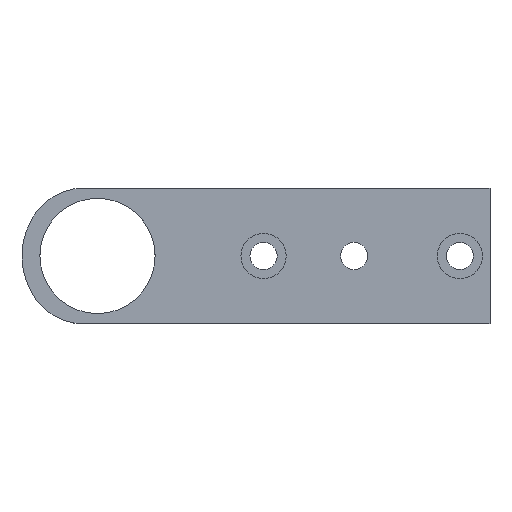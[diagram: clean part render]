
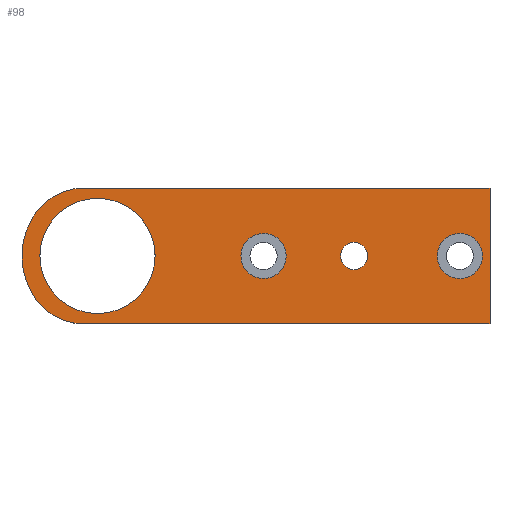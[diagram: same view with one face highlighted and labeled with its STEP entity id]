
A CAD part, top view. The second image highlights one B-rep face of the part: STEP entity #98.
In plain terms, the highlighted planar face has unit normal (0, 0, 1).
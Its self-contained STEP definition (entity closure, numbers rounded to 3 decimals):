
#11 = VERTEX_POINT ( 'NONE', #377 ) ;
#17 = VERTEX_POINT ( 'NONE', #391 ) ;
#23 = VERTEX_POINT ( 'NONE', #416 ) ;
#27 = EDGE_CURVE ( 'NONE', #23, #11, #423, .T. ) ;
#29 = VERTEX_POINT ( 'NONE', #384 ) ;
#52 = EDGE_CURVE ( 'NONE', #81, #29, #436, .T. ) ;
#67 = ORIENTED_EDGE ( 'NONE', *, *, #230, .T. ) ;
#81 = VERTEX_POINT ( 'NONE', #499 ) ;
#83 = VERTEX_POINT ( 'NONE', #498 ) ;
#84 = EDGE_LOOP ( 'NONE', ( #139, #95 ) ) ;
#86 = EDGE_LOOP ( 'NONE', ( #104, #105, #103, #97, #138, #67, #229 ) ) ;
#95 = ORIENTED_EDGE ( 'NONE', *, *, #119, .T. ) ;
#96 = EDGE_CURVE ( 'NONE', #83, #17, #550, .T. ) ;
#97 = ORIENTED_EDGE ( 'NONE', *, *, #102, .T. ) ;
#98 = ADVANCED_FACE ( 'NONE', ( #492, #551, #542, #541, #553 ), #552, .T. ) ;
#102 = EDGE_CURVE ( 'NONE', #126, #83, #531, .T. ) ;
#103 = ORIENTED_EDGE ( 'NONE', *, *, #121, .T. ) ;
#104 = ORIENTED_EDGE ( 'NONE', *, *, #142, .T. ) ;
#105 = ORIENTED_EDGE ( 'NONE', *, *, #27, .T. ) ;
#119 = EDGE_CURVE ( 'NONE', #29, #81, #566, .T. ) ;
#121 = EDGE_CURVE ( 'NONE', #11, #126, #615, .T. ) ;
#126 = VERTEX_POINT ( 'NONE', #600 ) ;
#138 = ORIENTED_EDGE ( 'NONE', *, *, #96, .T. ) ;
#139 = ORIENTED_EDGE ( 'NONE', *, *, #52, .T. ) ;
#141 = VERTEX_POINT ( 'NONE', #643 ) ;
#142 = EDGE_CURVE ( 'NONE', #141, #23, #654, .T. ) ;
#220 = ORIENTED_EDGE ( 'NONE', *, *, #353, .F. ) ;
#222 = EDGE_CURVE ( 'NONE', #223, #141, #732, .T. ) ;
#223 = VERTEX_POINT ( 'NONE', #722 ) ;
#229 = ORIENTED_EDGE ( 'NONE', *, *, #222, .T. ) ;
#230 = EDGE_CURVE ( 'NONE', #17, #223, #769, .T. ) ;
#253 = ORIENTED_EDGE ( 'NONE', *, *, #273, .F. ) ;
#254 = EDGE_LOOP ( 'NONE', ( #256, #255 ) ) ;
#255 = ORIENTED_EDGE ( 'NONE', *, *, #282, .T. ) ;
#256 = ORIENTED_EDGE ( 'NONE', *, *, #257, .T. ) ;
#257 = EDGE_CURVE ( 'NONE', #327, #319, #721, .T. ) ;
#258 = ORIENTED_EDGE ( 'NONE', *, *, #259, .F. ) ;
#259 = EDGE_CURVE ( 'NONE', #270, #272, #806, .T. ) ;
#260 = EDGE_LOOP ( 'NONE', ( #262, #220 ) ) ;
#261 = EDGE_LOOP ( 'NONE', ( #258, #253 ) ) ;
#262 = ORIENTED_EDGE ( 'NONE', *, *, #263, .F. ) ;
#263 = EDGE_CURVE ( 'NONE', #368, #369, #796, .T. ) ;
#270 = VERTEX_POINT ( 'NONE', #837 ) ;
#272 = VERTEX_POINT ( 'NONE', #832 ) ;
#273 = EDGE_CURVE ( 'NONE', #272, #270, #784, .T. ) ;
#282 = EDGE_CURVE ( 'NONE', #319, #327, #792, .T. ) ;
#319 = VERTEX_POINT ( 'NONE', #862 ) ;
#327 = VERTEX_POINT ( 'NONE', #922 ) ;
#353 = EDGE_CURVE ( 'NONE', #369, #368, #974, .T. ) ;
#368 = VERTEX_POINT ( 'NONE', #1011 ) ;
#369 = VERTEX_POINT ( 'NONE', #954 ) ;
#377 = CARTESIAN_POINT ( 'NONE',  ( -21.651, -12.5, 6. ) ) ;
#384 = CARTESIAN_POINT ( 'NONE',  ( 19.079, 0., 6. ) ) ;
#391 = CARTESIAN_POINT ( 'NONE',  ( 130., 22.5, 6. ) ) ;
#404 = DIRECTION ( 'NONE',  ( 1., 0., 0. ) ) ;
#405 = DIRECTION ( 'NONE',  ( 0., 0., 1. ) ) ;
#406 = CARTESIAN_POINT ( 'NONE',  ( 0., 0., 6. ) ) ;
#408 = AXIS2_PLACEMENT_3D ( 'NONE', #406, #405, #404 ) ;
#416 = CARTESIAN_POINT ( 'NONE',  ( -25., 0., 6. ) ) ;
#423 = CIRCLE ( 'NONE', #408, 25. ) ;
#432 = DIRECTION ( 'NONE',  ( 1., 0., 0. ) ) ;
#433 = DIRECTION ( 'NONE',  ( 0., 0., -1. ) ) ;
#434 = CARTESIAN_POINT ( 'NONE',  ( 0., 0., 6. ) ) ;
#435 = AXIS2_PLACEMENT_3D ( 'NONE', #434, #433, #432 ) ;
#436 = CIRCLE ( 'NONE', #435, 19.079 ) ;
#492 = FACE_BOUND ( 'NONE', #84, .T. ) ;
#498 = CARTESIAN_POINT ( 'NONE',  ( 130., -22.5, 6. ) ) ;
#499 = CARTESIAN_POINT ( 'NONE',  ( -19.079, 0., 6. ) ) ;
#502 = CARTESIAN_POINT ( 'NONE',  ( 0., 0., 6. ) ) ;
#528 = DIRECTION ( 'NONE',  ( 1., 0., 0. ) ) ;
#529 = VECTOR ( 'NONE', #528, 1000. ) ;
#530 = CARTESIAN_POINT ( 'NONE',  ( 130., -22.5, 6. ) ) ;
#531 = LINE ( 'NONE', #530, #529 ) ;
#541 = FACE_BOUND ( 'NONE', #261, .T. ) ;
#542 = FACE_BOUND ( 'NONE', #260, .T. ) ;
#543 = DIRECTION ( 'NONE',  ( 1., 0., 0. ) ) ;
#544 = DIRECTION ( 'NONE',  ( 0., 1., 0. ) ) ;
#545 = VECTOR ( 'NONE', #544, 1000. ) ;
#546 = CARTESIAN_POINT ( 'NONE',  ( 130., 22.5, 6. ) ) ;
#547 = AXIS2_PLACEMENT_3D ( 'NONE', #502, #554, #543 ) ;
#550 = LINE ( 'NONE', #546, #545 ) ;
#551 = FACE_OUTER_BOUND ( 'NONE', #86, .T. ) ;
#552 = PLANE ( 'NONE',  #547 ) ;
#553 = FACE_BOUND ( 'NONE', #254, .T. ) ;
#554 = DIRECTION ( 'NONE',  ( 0., 0., 1. ) ) ;
#561 = DIRECTION ( 'NONE',  ( 0., 0., -1. ) ) ;
#562 = AXIS2_PLACEMENT_3D ( 'NONE', #575, #561, #612 ) ;
#566 = CIRCLE ( 'NONE', #562, 19.079 ) ;
#575 = CARTESIAN_POINT ( 'NONE',  ( 0., 0., 6. ) ) ;
#600 = CARTESIAN_POINT ( 'NONE',  ( -4.33, -22.5, 6. ) ) ;
#601 = DIRECTION ( 'NONE',  ( 1., 0., 0. ) ) ;
#602 = DIRECTION ( 'NONE',  ( 0., 0., 1. ) ) ;
#603 = CARTESIAN_POINT ( 'NONE',  ( -4.33, -2.5, 6. ) ) ;
#604 = AXIS2_PLACEMENT_3D ( 'NONE', #603, #602, #601 ) ;
#612 = DIRECTION ( 'NONE',  ( 1., 0., 0. ) ) ;
#615 = CIRCLE ( 'NONE', #604, 20. ) ;
#632 = DIRECTION ( 'NONE',  ( 1., 0., 0. ) ) ;
#633 = DIRECTION ( 'NONE',  ( 0., 0., 1. ) ) ;
#634 = CARTESIAN_POINT ( 'NONE',  ( 0., 0., 6. ) ) ;
#636 = AXIS2_PLACEMENT_3D ( 'NONE', #634, #633, #632 ) ;
#643 = CARTESIAN_POINT ( 'NONE',  ( -21.651, 12.5, 6. ) ) ;
#654 = CIRCLE ( 'NONE', #636, 25. ) ;
#721 = CIRCLE ( 'NONE', #805, 4.5 ) ;
#722 = CARTESIAN_POINT ( 'NONE',  ( -4.33, 22.5, 6. ) ) ;
#730 = CARTESIAN_POINT ( 'NONE',  ( -4.33, 2.5, 6. ) ) ;
#732 = CIRCLE ( 'NONE', #734, 20. ) ;
#734 = AXIS2_PLACEMENT_3D ( 'NONE', #730, #779, #778 ) ;
#751 = AXIS2_PLACEMENT_3D ( 'NONE', #797, #795, #794 ) ;
#767 = DIRECTION ( 'NONE',  ( -1., 0., 0. ) ) ;
#768 = VECTOR ( 'NONE', #767, 1000. ) ;
#769 = LINE ( 'NONE', #775, #768 ) ;
#775 = CARTESIAN_POINT ( 'NONE',  ( -10.897, 22.5, 6. ) ) ;
#778 = DIRECTION ( 'NONE',  ( 1., 0., 0. ) ) ;
#779 = DIRECTION ( 'NONE',  ( 0., 0., 1. ) ) ;
#784 = CIRCLE ( 'NONE', #801, 7.5 ) ;
#787 = DIRECTION ( 'NONE',  ( 1., 0., 0. ) ) ;
#788 = DIRECTION ( 'NONE',  ( 0., 0., 1. ) ) ;
#789 = CARTESIAN_POINT ( 'NONE',  ( 120., 0., 6. ) ) ;
#790 = AXIS2_PLACEMENT_3D ( 'NONE', #789, #788, #787 ) ;
#792 = CIRCLE ( 'NONE', #823, 4.5 ) ;
#794 = DIRECTION ( 'NONE',  ( 1., 0., 0. ) ) ;
#795 = DIRECTION ( 'NONE',  ( 0., 0., 1. ) ) ;
#796 = CIRCLE ( 'NONE', #790, 7.5 ) ;
#797 = CARTESIAN_POINT ( 'NONE',  ( 55., 0., 6. ) ) ;
#798 = DIRECTION ( 'NONE',  ( -1., 0., 0. ) ) ;
#799 = DIRECTION ( 'NONE',  ( 0., 0., -1. ) ) ;
#800 = CARTESIAN_POINT ( 'NONE',  ( 85., 0., 6. ) ) ;
#801 = AXIS2_PLACEMENT_3D ( 'NONE', #831, #830, #829 ) ;
#805 = AXIS2_PLACEMENT_3D ( 'NONE', #800, #799, #798 ) ;
#806 = CIRCLE ( 'NONE', #751, 7.5 ) ;
#809 = DIRECTION ( 'NONE',  ( -1., 0., 0. ) ) ;
#810 = DIRECTION ( 'NONE',  ( 0., 0., -1. ) ) ;
#811 = CARTESIAN_POINT ( 'NONE',  ( 85., 0., 6. ) ) ;
#823 = AXIS2_PLACEMENT_3D ( 'NONE', #811, #810, #809 ) ;
#829 = DIRECTION ( 'NONE',  ( 1., 0., 0. ) ) ;
#830 = DIRECTION ( 'NONE',  ( 0., 0., 1. ) ) ;
#831 = CARTESIAN_POINT ( 'NONE',  ( 55., 0., 6. ) ) ;
#832 = CARTESIAN_POINT ( 'NONE',  ( 47.5, 0., 6. ) ) ;
#837 = CARTESIAN_POINT ( 'NONE',  ( 62.5, 0., 6. ) ) ;
#862 = CARTESIAN_POINT ( 'NONE',  ( 89.5, 0., 6. ) ) ;
#922 = CARTESIAN_POINT ( 'NONE',  ( 80.5, 0., 6. ) ) ;
#954 = CARTESIAN_POINT ( 'NONE',  ( 112.5, 0., 6. ) ) ;
#970 = DIRECTION ( 'NONE',  ( 1., 0., 0. ) ) ;
#971 = DIRECTION ( 'NONE',  ( 0., 0., 1. ) ) ;
#972 = CARTESIAN_POINT ( 'NONE',  ( 120., 0., 6. ) ) ;
#973 = AXIS2_PLACEMENT_3D ( 'NONE', #972, #971, #970 ) ;
#974 = CIRCLE ( 'NONE', #973, 7.5 ) ;
#1011 = CARTESIAN_POINT ( 'NONE',  ( 127.5, 0., 6. ) ) ;
